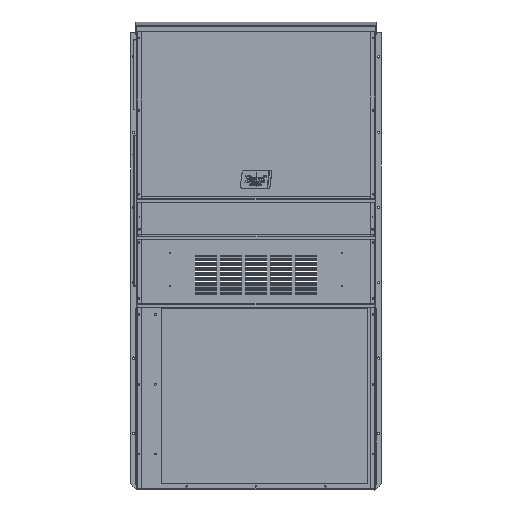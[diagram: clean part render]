
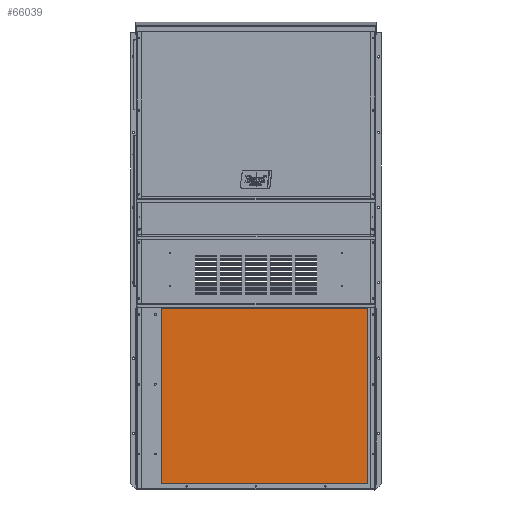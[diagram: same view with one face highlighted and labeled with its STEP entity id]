
A CAD part, top view. The second image highlights one B-rep face of the part: STEP entity #66039.
In plain terms, the highlighted planar face has unit normal (0, 0, 1).
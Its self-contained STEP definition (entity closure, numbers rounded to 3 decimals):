
#1035 = CARTESIAN_POINT ( 'NONE',  ( -13.282, -24.3, 9.224 ) ) ;
#2496 = EDGE_CURVE ( 'NONE', #128420, #12151, #3559, .T. ) ;
#3559 = LINE ( 'NONE', #122463, #57851 ) ;
#5001 = ORIENTED_EDGE ( 'NONE', *, *, #94548, .T. ) ;
#5397 = PLANE ( 'NONE',  #35893 ) ;
#12151 = VERTEX_POINT ( 'NONE', #98597 ) ;
#16722 = DIRECTION ( 'NONE',  ( 0., 0., 1. ) ) ;
#19095 = LINE ( 'NONE', #41016, #76808 ) ;
#25496 = DIRECTION ( 'NONE',  ( -1., 0., 0. ) ) ;
#26380 = EDGE_CURVE ( 'NONE', #77302, #128420, #36690, .T. ) ;
#26575 = DIRECTION ( 'NONE',  ( 0., -1., 0. ) ) ;
#31349 = ORIENTED_EDGE ( 'NONE', *, *, #84827, .T. ) ;
#35893 = AXIS2_PLACEMENT_3D ( 'NONE', #81693, #16722, #92642 ) ;
#36690 = LINE ( 'NONE', #54978, #87631 ) ;
#37820 = CARTESIAN_POINT ( 'NONE',  ( 19.644, -24.3, 9.224 ) ) ;
#41016 = CARTESIAN_POINT ( 'NONE',  ( -13.282, -52.198, 9.224 ) ) ;
#54978 = CARTESIAN_POINT ( 'NONE',  ( -13.282, -24.3, 9.224 ) ) ;
#57072 = ORIENTED_EDGE ( 'NONE', *, *, #2496, .T. ) ;
#57851 = VECTOR ( 'NONE', #26575, 39.37 ) ;
#60181 = EDGE_LOOP ( 'NONE', ( #87888, #57072, #31349, #5001 ) ) ;
#66039 = ADVANCED_FACE ( 'NONE', ( #76573 ), #5397, .T. ) ;
#68415 = VECTOR ( 'NONE', #135636, 39.37 ) ;
#76573 = FACE_OUTER_BOUND ( 'NONE', #60181, .T. ) ;
#76808 = VECTOR ( 'NONE', #95164, 39.37 ) ;
#77302 = VERTEX_POINT ( 'NONE', #121450 ) ;
#81693 = CARTESIAN_POINT ( 'NONE',  ( -13.282, -24.3, 9.224 ) ) ;
#84827 = EDGE_CURVE ( 'NONE', #12151, #115963, #19095, .T. ) ;
#87631 = VECTOR ( 'NONE', #25496, 39.37 ) ;
#87888 = ORIENTED_EDGE ( 'NONE', *, *, #26380, .T. ) ;
#92642 = DIRECTION ( 'NONE',  ( 0., -1., 0. ) ) ;
#94548 = EDGE_CURVE ( 'NONE', #115963, #77302, #97321, .T. ) ;
#95164 = DIRECTION ( 'NONE',  ( 1., 0., 0. ) ) ;
#97321 = LINE ( 'NONE', #37820, #68415 ) ;
#98597 = CARTESIAN_POINT ( 'NONE',  ( -13.282, -52.198, 9.224 ) ) ;
#98624 = CARTESIAN_POINT ( 'NONE',  ( 19.644, -52.198, 9.224 ) ) ;
#115963 = VERTEX_POINT ( 'NONE', #98624 ) ;
#121450 = CARTESIAN_POINT ( 'NONE',  ( 19.644, -24.3, 9.224 ) ) ;
#122463 = CARTESIAN_POINT ( 'NONE',  ( -13.282, -24.3, 9.224 ) ) ;
#128420 = VERTEX_POINT ( 'NONE', #1035 ) ;
#135636 = DIRECTION ( 'NONE',  ( 0., 1., 0. ) ) ;
